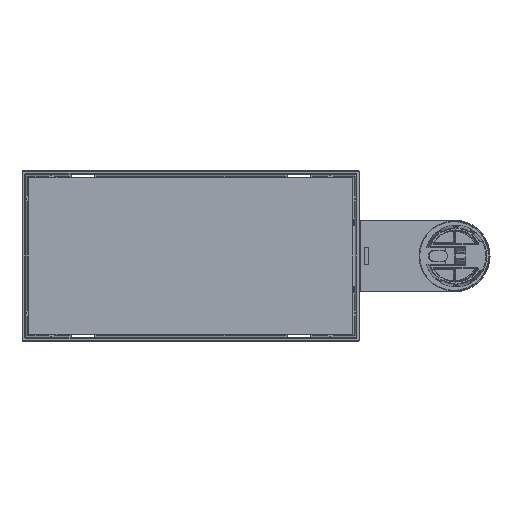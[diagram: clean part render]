
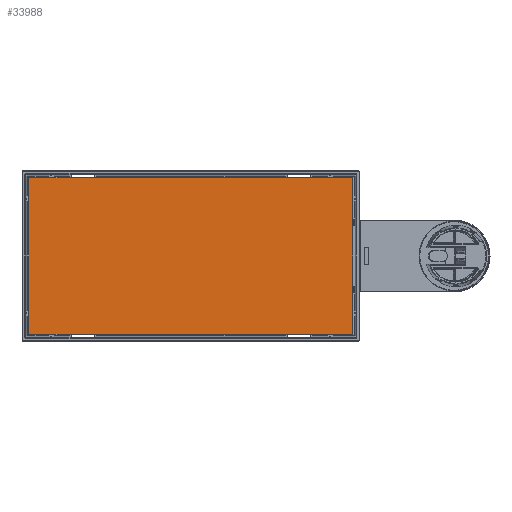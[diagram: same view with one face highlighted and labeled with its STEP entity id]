
A CAD part, front view. The second image highlights one B-rep face of the part: STEP entity #33988.
In plain terms, the highlighted planar face has unit normal (0, -1, 0).
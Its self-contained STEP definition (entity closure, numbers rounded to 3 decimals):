
#33949=DIRECTION('',(0.,0.,1.));
#33950=VECTOR('',#33949,130.6);
#33951=CARTESIAN_POINT('',(-135.3,1.,-65.3));
#33952=LINE('',#33951,#33950);
#33953=DIRECTION('',(1.,0.,0.));
#33954=VECTOR('',#33953,270.6);
#33955=CARTESIAN_POINT('',(-135.3,1.,65.3));
#33956=LINE('',#33955,#33954);
#33957=DIRECTION('',(0.,0.,-1.));
#33958=VECTOR('',#33957,130.6);
#33959=CARTESIAN_POINT('',(135.3,1.,65.3));
#33960=LINE('',#33959,#33958);
#33961=DIRECTION('',(-1.,0.,0.));
#33962=VECTOR('',#33961,270.6);
#33963=CARTESIAN_POINT('',(135.3,1.,-65.3));
#33964=LINE('',#33963,#33962);
#33965=CARTESIAN_POINT('',(-135.3,1.,65.3));
#33966=CARTESIAN_POINT('',(-135.3,1.,-65.3));
#33967=VERTEX_POINT('',#33965);
#33968=VERTEX_POINT('',#33966);
#33969=CARTESIAN_POINT('',(135.3,1.,65.3));
#33970=VERTEX_POINT('',#33969);
#33971=CARTESIAN_POINT('',(135.3,1.,-65.3));
#33972=VERTEX_POINT('',#33971);
#33973=CARTESIAN_POINT('',(0.,1.,0.));
#33974=DIRECTION('',(0.,1.,0.));
#33975=DIRECTION('',(1.,0.,0.));
#33976=AXIS2_PLACEMENT_3D('',#33973,#33974,#33975);
#33977=PLANE('',#33976);
#33979=ORIENTED_EDGE('',*,*,#33978,.T.);
#33981=ORIENTED_EDGE('',*,*,#33980,.T.);
#33983=ORIENTED_EDGE('',*,*,#33982,.T.);
#33985=ORIENTED_EDGE('',*,*,#33984,.T.);
#33986=EDGE_LOOP('',(#33979,#33981,#33983,#33985));
#33987=FACE_OUTER_BOUND('',#33986,.F.);
#33988=ADVANCED_FACE('',(#33987),#33977,.F.);
#33978=EDGE_CURVE('',#33968,#33967,#33952,.T.);
#33980=EDGE_CURVE('',#33967,#33970,#33956,.T.);
#33982=EDGE_CURVE('',#33970,#33972,#33960,.T.);
#33984=EDGE_CURVE('',#33972,#33968,#33964,.T.);
